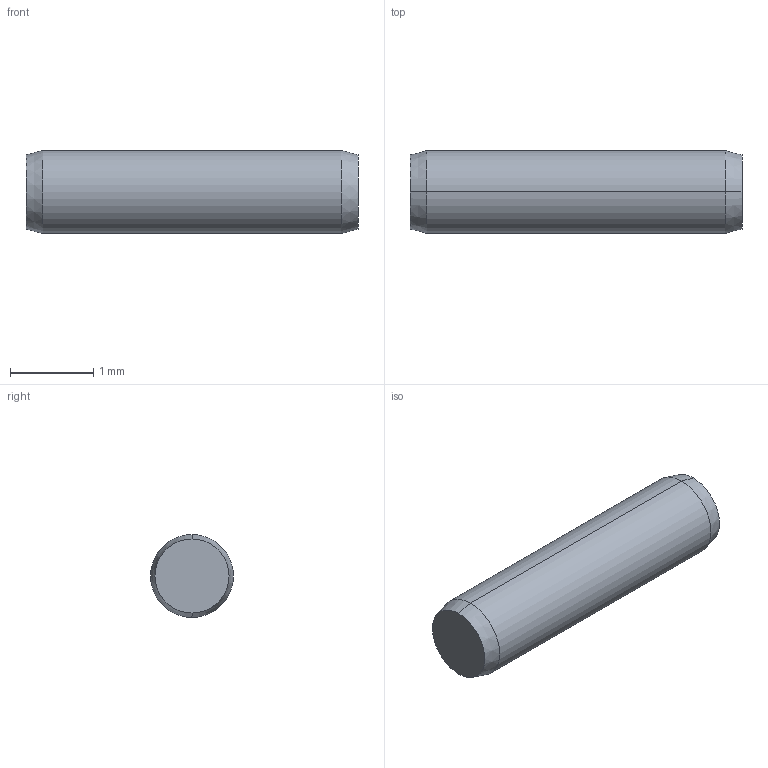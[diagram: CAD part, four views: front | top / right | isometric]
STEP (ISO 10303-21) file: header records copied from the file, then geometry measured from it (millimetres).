
FILE_DESCRIPTION (( 'STEP AP203' ), '1' );
FILE_NAME ('P1206.010-004.step', '2017-06-14T07:50:01', ( 'User' ), ( '' ), 'SwSTEP 2.0', 'SolidWorks 2009', '' );
FILE_SCHEMA (( 'CONFIG_CONTROL_DESIGN' ));
Length unit declared in the file: millimetre
Products named in the file (1): P1206.010-004
Bounding box: 4 x 1 x 1 mm (x, y, z)
Volume: 3.1 mm3; surface area: 13.8 mm2
Topology: 1 solids, 1 shells, 8 faces, 14 edges, 8 vertices
Faces by surface type: cone 4, cylinder 2, plane 2
Entity records: 271 total; most frequent: DIRECTION 40, CARTESIAN_POINT 31, ORIENTED_EDGE 28, AXIS2_PLACEMENT_3D 17, EDGE_CURVE 14, VERTEX_POINT 8, EDGE_LOOP 8, ADVANCED_FACE 8
